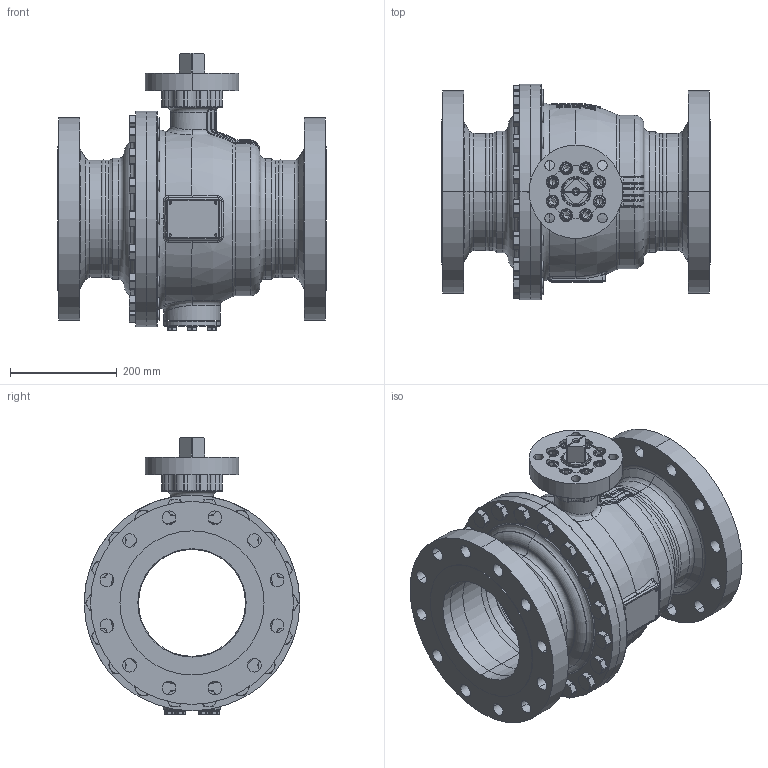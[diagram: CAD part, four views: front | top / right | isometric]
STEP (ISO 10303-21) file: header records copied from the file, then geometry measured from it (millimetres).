
FILE_DESCRIPTION((''),'2;1');
FILE_NAME('KHI-F_200_CL300-F14-4_SW0001','2026-02-05T12:53:03',('fischerkl'),('KLINGER'),'CREO PARAMETRIC BY PTC INC, 2023014','CREO PARAMETRIC BY PTC INC, 2023014','');
FILE_SCHEMA(('CONFIG_CONTROL_DESIGN'));
Products named in the file (1): KHI-F_200_CL300-F14-4_SW0001
Bounding box: 502 x 404 x 519.2 mm (x, y, z)
Volume: 16339771.2 mm3; surface area: 2457823.9 mm2
Topology: 1 solids, 4 shells, 2937 faces, 7354 edges, 4559 vertices
Faces by surface type: plane 1414, cylinder 718, cone 364, torus 303, bspline 108, sphere 30
Entity records: 120999 total; most frequent: CARTESIAN_POINT 51589, ORIENTED_EDGE 14656, DIRECTION 14407, EDGE_CURVE 7328, AXIS2_PLACEMENT_3D 5563, VERTEX_POINT 4559, VECTOR 3281, LINE 3281
